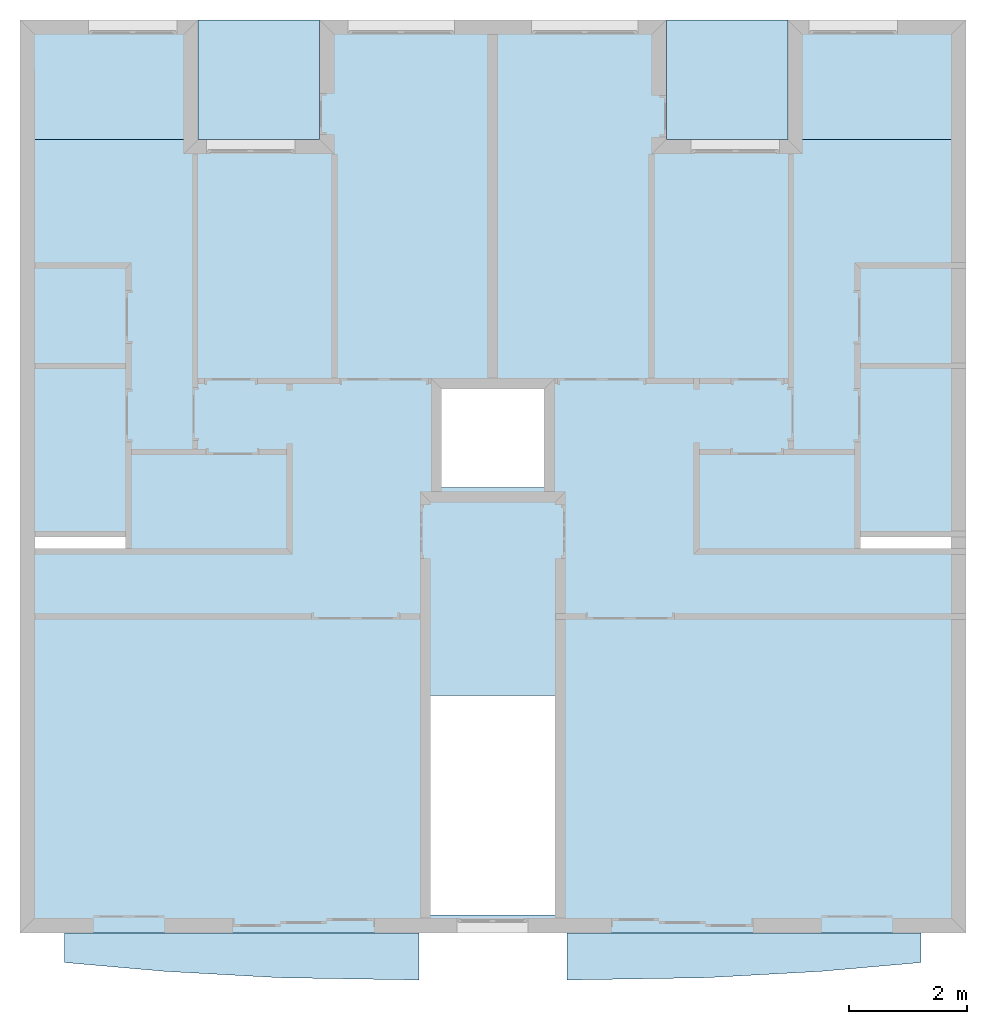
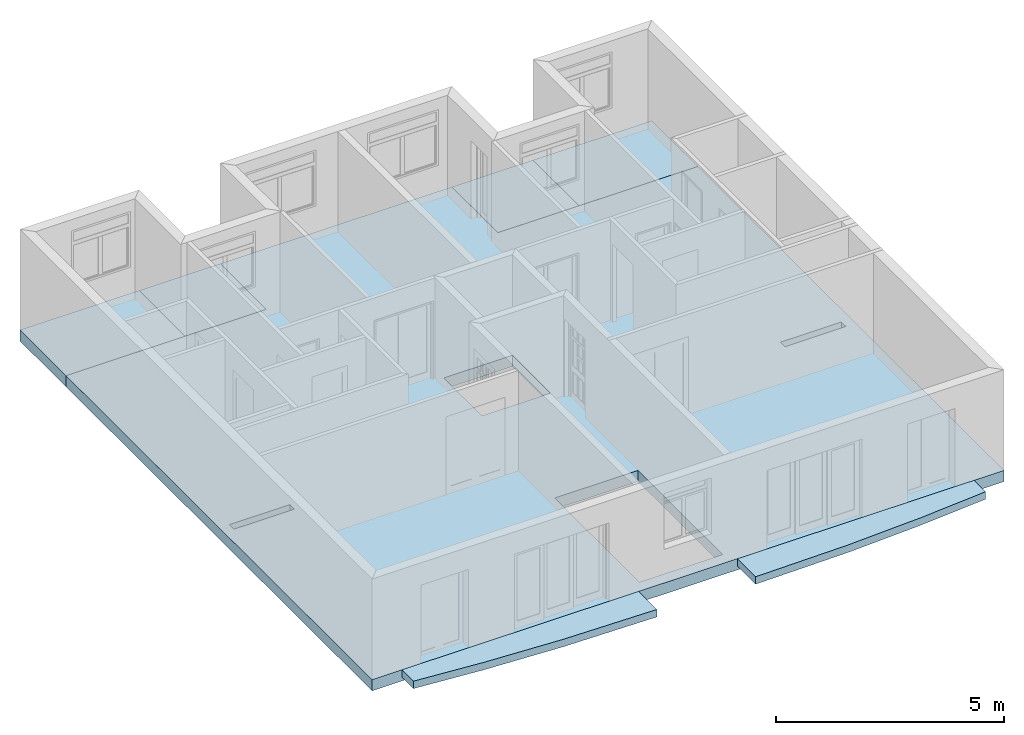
# One storey, part 1 of 11: 7 slabs, 4 openings.
"""IFC2X3 building model written with IfcOpenShell, lengths in metres."""

from ifc_helpers import new_model, entity, si_unit, converted_unit, direction, frame, origin_with_axes, place, context, project, spatial, polyline, outline, extrude, material, layer, layer_set, layer_usage, element, save


model = new_model("IFC2X3")

# Units and contexts
context_of_model = context(None, 3, precision=1e-05, world=origin_with_axes(), true_north=direction((6.123234e-17, 1.0)))
plan_context = context("Plan", 3, precision=1e-05, world=origin_with_axes(), true_north=direction((6.123234e-17, 1.0)))
model_context = context("Model", 3, precision=1e-05, world=origin_with_axes(), true_north=direction((6.123234e-17, 1.0)))
ifc_project = project(units=[si_unit("LENGTHUNIT", "METRE"), si_unit("AREAUNIT", "SQUARE_METRE"), si_unit("VOLUMEUNIT", "CUBIC_METRE"), converted_unit("PLANEANGLEUNIT", "DEGREE", entity("IfcPlaneAngleMeasure", 0.017453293), si_unit("PLANEANGLEUNIT", "RADIAN"), dimensions=[0, 0, 0, 0, 0, 0, 0]), si_unit("SOLIDANGLEUNIT", "STERADIAN"), si_unit("MASSUNIT", "GRAM"), si_unit("TIMEUNIT", "SECOND"), si_unit("THERMODYNAMICTEMPERATUREUNIT", "DEGREE_CELSIUS"), si_unit("LUMINOUSINTENSITYUNIT", "LUMEN")], contexts=[context_of_model, plan_context, model_context])

# Site, building, storey
site_placement = place(None, origin_with_axes())
site = spatial("IfcSite", under=ifc_project, at=site_placement, Name="Por defecto Sitio", CompositionType="ELEMENT")
building_placement = place(site_placement, origin_with_axes())
building = spatial("IfcBuilding", under=site, at=building_placement, Name="Por defecto Edificio", CompositionType="ELEMENT")
storey_placement = place(building_placement, frame((0.0, 0.0, 13.2), z_axis=(0.0, 0.0, 1.0), x_axis=(1.0, 0.0, 0.0)))
storey = spatial("IfcBuildingStorey", under=building, at=storey_placement, Name="Cuarta", CompositionType="ELEMENT", Elevation=13.2)

# Slabs
ifc_material_1 = material(Name="Sólido + Punto&Línea")
ifc_layer_1 = layer(ifc_material_1, 0.2, ventilated="UNKNOWN")
ifc_layer_set_1 = layer_set([ifc_layer_1], Name="Sólido + Punto&Línea")
ifc_layer_usage_1 = layer_usage(ifc_layer_set_1, "AXIS3", "NEGATIVE", 0.2)
slab_1_placement = place(storey_placement, frame((13.01417, 15.472599, -0.2), z_axis=(0.0, 0.0, 1.0), x_axis=(-1.0, 0.0, 0.0)))
element("IfcSlab", 1, at=slab_1_placement, inside=storey, material=ifc_layer_usage_1, Name="Forj-004", PredefinedType="FLOOR", context=context_of_model, shape_type="SweptSolid", body=[
    extrude(outline(polyline([(0.0, 0.0), (2.0581164, 0.0), (2.0581164, 2.0234265), (0.0, 2.0234265), (0.0, 0.0)])), origin_with_axes(), (0.0, 0.0, 1.0), 0.2),
])
ifc_layer_usage_2 = layer_usage(ifc_layer_set_1, "AXIS3", "NEGATIVE", 0.2)
slab_2_placement = place(storey_placement, frame((3.02, 15.472599, -0.2), z_axis=(0.0, 0.0, 1.0), x_axis=(0.0, -1.0, 0.0)))
element("IfcSlab", 2, at=slab_2_placement, inside=storey, material=ifc_layer_usage_2, Name="Forj-003", PredefinedType="FLOOR", context=context_of_model, shape_type="SweptSolid", body=[
    extrude(outline(polyline([(0.0, 0.0), (2.0234265, 0.0), (2.0234265, 2.0581164), (0.0, 2.0581164), (0.0, 0.0)])), origin_with_axes(), (0.0, 0.0, 1.0), 0.2),
])

# Slab, openings
ifc_material_2 = material(Name="Hormigón armado")
ifc_layer_2 = layer(ifc_material_2, 0.3, ventilated="UNKNOWN")
ifc_layer_set_2 = layer_set([ifc_layer_2], Name="Hormigón armado")
ifc_layer_usage_3 = layer_usage(ifc_layer_set_2, "AXIS3", "NEGATIVE", 0.3)
slab_3_placement = place(storey_placement, frame((3.0200001, 13.449173, -0.3), z_axis=(0.0, 0.0, 1.0), x_axis=(-1.0, 0.0, 0.0)))
slab_3 = element("IfcSlab", 3, at=slab_3_placement, inside=storey, material=ifc_layer_usage_3, Name="Forj-003", PredefinedType="FLOOR", context=context_of_model, shape_type="SweptSolid", body=[
    extrude(outline(polyline([(0.0, 0.0), (3.0204146, 0.0), (3.0200001, 13.449173), (-13.01417, 13.449173), (-13.01417, 0.0), (-9.9941699, 0.0), (-7.9360533, 0.0), (-7.9360533, -2.0234265), (-2.0581163, -2.0234265), (-2.0581163, 0.0), (0.0, 0.0)])), origin_with_axes(), (0.0, 0.0, 1.0), 0.3),
])
opening_1_placement = place(slab_3_placement, origin_with_axes())
element("IfcOpeningElement", 4, at=opening_1_placement, cuts=slab_3, context=model_context, shape_type="SweptSolid", body=[
    extrude(outline(polyline([(2.7699999, 6.9379552), (2.7699999, 6.7379552), (1.2298348, 6.7379552), (1.2298348, 6.9379552), (2.7699999, 6.9379552)])), origin_with_axes(), (0.0, 0.0, 1.0), 0.3),
])
opening_2_placement = place(slab_3_placement, origin_with_axes())
element("IfcOpeningElement", 5, at=opening_2_placement, cuts=slab_3, context=model_context, shape_type="SweptSolid", body=[
    extrude(outline(polyline([(-3.9366602, 9.4291724), (-6.04917, 9.4291724), (-6.04917, 13.149173), (-3.9366602, 13.149173), (-3.9366602, 9.4291724)])), origin_with_axes(), (0.0, 0.0, 1.0), 0.3),
])
opening_3_placement = place(slab_3_placement, origin_with_axes())
element("IfcOpeningElement", 6, at=opening_3_placement, cuts=slab_3, context=model_context, shape_type="SweptSolid", body=[
    extrude(outline(polyline([(-4.1250001, 5.9015164), (-4.1250001, 4.2284112), (-5.8649999, 4.2284112), (-5.8649999, 5.9015164), (-4.1250001, 5.9015164)])), origin_with_axes(), (0.0, 0.0, 1.0), 0.3),
])
opening_4_placement = place(slab_3_placement, origin_with_axes())
element("IfcOpeningElement", 7, at=opening_4_placement, cuts=slab_3, context=model_context, shape_type="SweptSolid", body=[
    extrude(outline(polyline([(-11.219835, 6.9379552), (-11.219835, 6.7379552), (-12.76417, 6.7379552), (-12.76417, 6.9379552), (-11.219835, 6.9379552)])), origin_with_axes(), (0.0, 0.0, 1.0), 0.3),
])

# Slabs
ifc_layer_usage_4 = layer_usage(ifc_layer_set_1, "AXIS3", "NEGATIVE", 0.2)
slab_4_placement = place(storey_placement, frame((6.7629151, -2.5295321e-12, -0.2), z_axis=(0.0, 0.0, 1.0), x_axis=(-6.8145947e-13, -1.0, 0.0)))
element("IfcSlab", 8, at=slab_4_placement, inside=storey, material=ifc_layer_usage_4, Name="Forj-003", PredefinedType="FLOOR", context=context_of_model, shape_type="SweptSolid", body=[
    extrude(outline(polyline([(0.0, 0.0), (0.8002553, 0.0), (0.76145598, -2.3611599), (0.65450813, -4.3000185), (0.50418985, -6.005), (1.6763188e-12, -6.005), (0.0, 0.0)])), origin_with_axes(), (0.0, 0.0, 1.0), 0.2),
])
ifc_layer_usage_5 = layer_usage(ifc_layer_set_1, "AXIS3", "NEGATIVE", 0.2)
slab_5_placement = place(storey_placement, frame((9.2712548, -2.5295321e-12, -0.2), z_axis=(0.0, 0.0, 1.0), x_axis=(6.8145947e-13, -1.0, 0.0)))
element("IfcSlab", 9, at=slab_5_placement, inside=storey, material=ifc_layer_usage_5, Name="Forj-003", PredefinedType="FLOOR", context=context_of_model, shape_type="SweptSolid", body=[
    extrude(outline(polyline([(0.0, 0.0), (0.8002553, 0.0), (0.76145598, 2.3611599), (0.65450813, 4.3000185), (0.50418985, 6.005), (1.6763188e-12, 6.005), (0.0, 0.0)])), origin_with_axes(), (0.0, 0.0, 1.0), 0.2),
])
ifc_material_3 = material(Name="Escayola")
ifc_layer_3 = layer(ifc_material_3, 0.3, ventilated="UNKNOWN")
ifc_layer_set_3 = layer_set([ifc_layer_3], Name="Escayola")
ifc_layer_usage_6 = layer_usage(ifc_layer_set_3, "AXIS3", "NEGATIVE", 0.3)
slab_6_placement = place(storey_placement, frame((13.01417, 13.449173, -0.3), z_axis=(0.0, 0.0, 1.0), x_axis=(1.0, 0.0, 0.0)))
element("IfcSlab", 10, at=slab_6_placement, inside=storey, material=ifc_layer_usage_6, Name="Forj-003", PredefinedType="FLOOR", context=context_of_model, shape_type="SweptSolid", body=[
    extrude(outline(polyline([(0.0, 0.0), (3.0199998, 0.0), (3.0199998, 2.0234265), (0.0, 2.0234265), (0.0, 0.0)])), origin_with_axes(), (0.0, 0.0, 1.0), 0.3),
])
ifc_layer_usage_7 = layer_usage(ifc_layer_set_3, "AXIS3", "NEGATIVE", 0.3)
slab_7_placement = place(storey_placement, frame((-0.00041447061, 13.449173, -0.3), z_axis=(0.0, 0.0, 1.0), x_axis=(1.0, 0.0, 0.0)))
element("IfcSlab", 11, at=slab_7_placement, inside=storey, material=ifc_layer_usage_7, Name="Forj-004", PredefinedType="FLOOR", context=context_of_model, shape_type="SweptSolid", body=[
    extrude(outline(polyline([(0.0, 0.0), (3.0204145, 0.0), (3.0204145, 2.0234265), (0.0, 2.0234265), (0.0, 0.0)])), origin_with_axes(), (0.0, 0.0, 1.0), 0.3),
])

save(model, "model.ifc")
